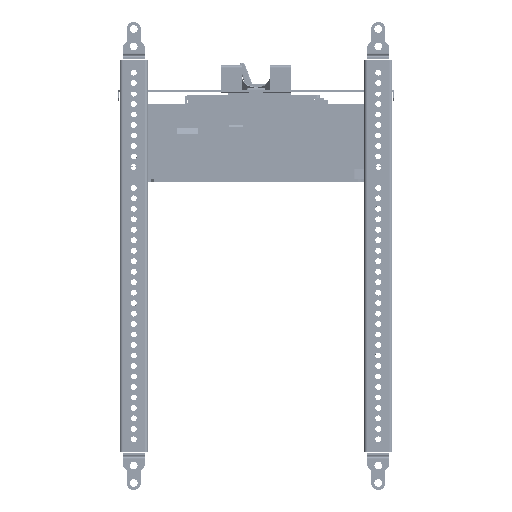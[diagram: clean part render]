
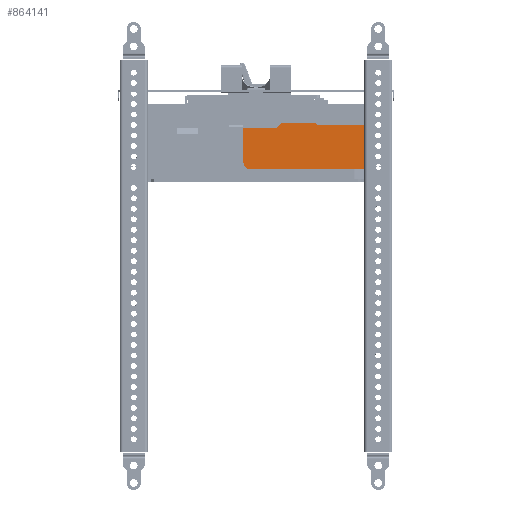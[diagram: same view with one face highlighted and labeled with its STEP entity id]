
A CAD part, left-side view. The second image highlights one B-rep face of the part: STEP entity #864141.
In plain terms, the highlighted planar face has unit normal (-1, 0, 0).
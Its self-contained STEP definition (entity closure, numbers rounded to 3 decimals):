
#835431=CARTESIAN_POINT(' ',(-214.461,-40.967,-27.147));
#835432=VERTEX_POINT(' ',#835431);
#835446=CARTESIAN_POINT(' ',(-214.461,-40.967,-27.147));
#835451=DIRECTION(' ',(0.,-1.,0.));
#835456=VECTOR(' ',#835451,1.);
#835461=LINE('',#835446,#835456);
#835466=CARTESIAN_POINT(' ',(-214.461,-41.201,-27.147));
#835467=VERTEX_POINT(' ',#835466);
#835471=EDGE_CURVE(' ',#835432,#835467,#835461,.T.);
#835921=CARTESIAN_POINT(' ',(-214.461,-75.967,-58.647));
#835922=VERTEX_POINT(' ',#835921);
#835936=CARTESIAN_POINT(' ',(-214.461,-75.967,-58.647));
#835941=DIRECTION(' ',(0.,1.,0.));
#835946=VECTOR(' ',#835941,1.);
#835951=LINE('',#835936,#835946);
#835956=CARTESIAN_POINT(' ',(-214.461,7.033,-58.647));
#835957=VERTEX_POINT(' ',#835956);
#835961=EDGE_CURVE(' ',#835922,#835957,#835951,.T.);
#836051=CARTESIAN_POINT(' ',(-214.461,12.033,-29.147));
#836056=DIRECTION(' ',(0.,0.,-1.));
#836061=VECTOR(' ',#836056,1.);
#836066=LINE('',#836051,#836061);
#836071=CARTESIAN_POINT(' ',(-214.461,12.033,-29.147));
#836072=VERTEX_POINT(' ',#836071);
#836076=CARTESIAN_POINT(' ',(-214.461,12.033,-53.647));
#836077=VERTEX_POINT(' ',#836076);
#836081=EDGE_CURVE(' ',#836072,#836077,#836066,.T.);
#836341=CARTESIAN_POINT(' ',(-214.461,7.034,-53.648));
#836346=DIRECTION(' ',(1.,0.,-0.));
#836351=DIRECTION(' ',(0.,0.,-1.));
#836356=AXIS2_PLACEMENT_3D(' ',#836341,#836346,#836351);
#836361=CIRCLE('',#836356,4.999);
#836366=EDGE_CURVE(' ',#835957,#836077,#836361,.T.);
#863816=CARTESIAN_POINT(' ',(-214.461,-39.467,-25.647));
#863817=VERTEX_POINT(' ',#863816);
#863831=CARTESIAN_POINT(' ',(-214.461,-39.467,-25.647));
#863836=DIRECTION(' ',(0.,-0.707,-0.707));
#863841=VECTOR(' ',#863836,1.);
#863846=LINE('',#863831,#863841);
#863851=EDGE_CURVE(' ',#863817,#835432,#863846,.T.);
#863881=DIRECTION(' ',(-1.,0.,-0.));
#863886=CARTESIAN_POINT(' ',(-214.461,-75.967,-58.647));
#863891=DIRECTION(' ',(0.,-0.,1.));
#863896=AXIS2_PLACEMENT_3D(' ',#863886,#863881,#863891);
#863901=PLANE('NONE',#863896);
#863906=CARTESIAN_POINT(' ',(-214.461,-11.467,-29.147));
#863911=DIRECTION(' ',(0.,-0.707,0.707));
#863916=VECTOR(' ',#863911,1.);
#863921=LINE('',#863906,#863916);
#863926=CARTESIAN_POINT(' ',(-214.461,-11.467,-29.147));
#863927=VERTEX_POINT(' ',#863926);
#863931=CARTESIAN_POINT(' ',(-214.461,-14.967,-25.647));
#863932=VERTEX_POINT(' ',#863931);
#863936=EDGE_CURVE(' ',#863927,#863932,#863921,.T.);
#863941=ORIENTED_EDGE(' ',*,*,#863936,.F.);
#863946=CARTESIAN_POINT(' ',(-214.461,-11.467,-29.147));
#863951=DIRECTION(' ',(0.,1.,0.));
#863956=VECTOR(' ',#863951,1.);
#863961=LINE('',#863946,#863956);
#863966=CARTESIAN_POINT(' ',(-214.461,-11.267,-29.147));
#863967=VERTEX_POINT(' ',#863966);
#863971=EDGE_CURVE(' ',#863927,#863967,#863961,.T.);
#863976=ORIENTED_EDGE(' ',*,*,#863971,.T.);
#863981=CARTESIAN_POINT(' ',(-214.461,12.033,-29.147));
#863986=DIRECTION(' ',(0.,-1.,0.));
#863991=VECTOR(' ',#863986,1.);
#863996=LINE('',#863981,#863991);
#864001=EDGE_CURVE(' ',#836072,#863967,#863996,.T.);
#864006=ORIENTED_EDGE(' ',*,*,#864001,.F.);
#864011=ORIENTED_EDGE(' ',*,*,#836081,.T.);
#864016=ORIENTED_EDGE(' ',*,*,#836366,.F.);
#864021=ORIENTED_EDGE(' ',*,*,#835961,.F.);
#864026=CARTESIAN_POINT(' ',(-214.461,-75.967,-27.147));
#864031=DIRECTION(' ',(0.,0.,-1.));
#864036=VECTOR(' ',#864031,1.);
#864041=LINE('',#864026,#864036);
#864046=CARTESIAN_POINT(' ',(-214.461,-75.967,-27.147));
#864047=VERTEX_POINT(' ',#864046);
#864051=EDGE_CURVE(' ',#864047,#835922,#864041,.T.);
#864056=ORIENTED_EDGE(' ',*,*,#864051,.F.);
#864061=CARTESIAN_POINT(' ',(-214.461,-41.201,-27.147));
#864066=DIRECTION(' ',(0.,-1.,0.));
#864071=VECTOR(' ',#864066,1.);
#864076=LINE('',#864061,#864071);
#864081=EDGE_CURVE(' ',#835467,#864047,#864076,.T.);
#864086=ORIENTED_EDGE(' ',*,*,#864081,.F.);
#864091=ORIENTED_EDGE(' ',*,*,#835471,.F.);
#864096=ORIENTED_EDGE(' ',*,*,#863851,.F.);
#864101=CARTESIAN_POINT(' ',(-214.461,-14.967,-25.647));
#864106=DIRECTION(' ',(0.,-1.,0.));
#864111=VECTOR(' ',#864106,1.);
#864116=LINE('',#864101,#864111);
#864121=EDGE_CURVE(' ',#863932,#863817,#864116,.T.);
#864126=ORIENTED_EDGE(' ',*,*,#864121,.F.);
#864131=EDGE_LOOP(' ',(#863941,#863976,#864006,#864011,#864016,#864021,#864056,#864086,#864091,#864096,#864126));
#864136=FACE_OUTER_BOUND(' ',#864131,.T.);
#864141=ADVANCED_FACE('NONE',(#864136),#863901,.T.);
